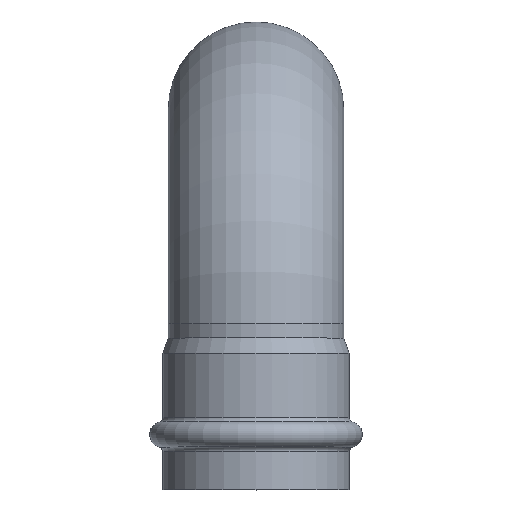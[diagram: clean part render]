
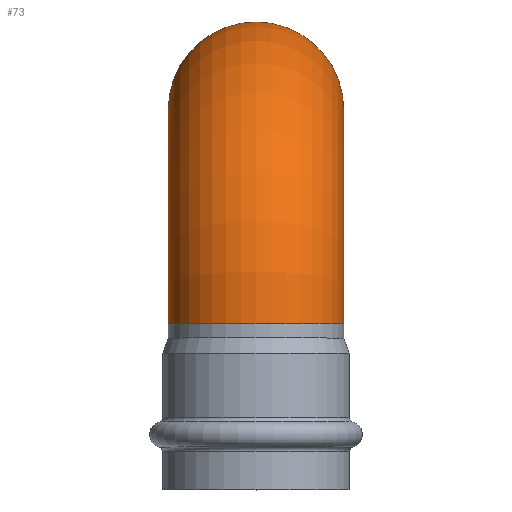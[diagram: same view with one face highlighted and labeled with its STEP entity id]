
A CAD part, top view. The second image highlights one B-rep face of the part: STEP entity #73.
In plain terms, the highlighted toroidal (fillet/blend) face has major radius 66 mm and minor radius 27 mm.
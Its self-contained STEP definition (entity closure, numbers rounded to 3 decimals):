
#73=ADVANCED_FACE('',(#254,#256),#258,.T.);
#254=FACE_BOUND('',#255,.T.);
#255=EDGE_LOOP('',(#310,#311));
#256=FACE_OUTER_BOUND('',#257,.T.);
#257=EDGE_LOOP('',(#312));
#258=TOROIDAL_SURFACE('',#259,66.,27.);
#259=AXIS2_PLACEMENT_3D('',#260,#261,#262);
#260=CARTESIAN_POINT('',(0.,51.,-66.));
#261=DIRECTION('',(-1.,0.,0.));
#262=DIRECTION('',(0.,0.,1.));
#310=ORIENTED_EDGE('',*,*,#337,.T.);
#311=ORIENTED_EDGE('',*,*,#336,.T.);
#312=ORIENTED_EDGE('',*,*,#335,.F.);
#335=EDGE_CURVE('',#382,#382,#383,.T.);
#336=EDGE_CURVE('',#384,#385,#386,.T.);
#337=EDGE_CURVE('',#385,#384,#387,.T.);
#382=VERTEX_POINT('',#498);
#383=CIRCLE('',#499,27.);
#384=VERTEX_POINT('',#503);
#385=VERTEX_POINT('',#504);
#386=CIRCLE('',#505,27.);
#387=CIRCLE('',#509,27.);
#498=CARTESIAN_POINT('',(-27.,117.,-66.));
#499=AXIS2_PLACEMENT_3D('',#500,#501,#502);
#500=CARTESIAN_POINT('',(0.,117.,-66.));
#501=DIRECTION('',(0.,0.,-1.));
#502=DIRECTION('',(-1.,0.,0.));
#503=CARTESIAN_POINT('',(-27.,51.,0.));
#504=CARTESIAN_POINT('',(0.,51.,27.));
#505=AXIS2_PLACEMENT_3D('',#506,#507,#508);
#506=CARTESIAN_POINT('',(0.,51.,0.));
#507=DIRECTION('',(0.,1.,0.));
#508=DIRECTION('',(-1.,0.,0.));
#509=AXIS2_PLACEMENT_3D('',#510,#511,#512);
#510=CARTESIAN_POINT('',(0.,51.,0.));
#511=DIRECTION('',(0.,1.,0.));
#512=DIRECTION('',(0.,0.,1.));
